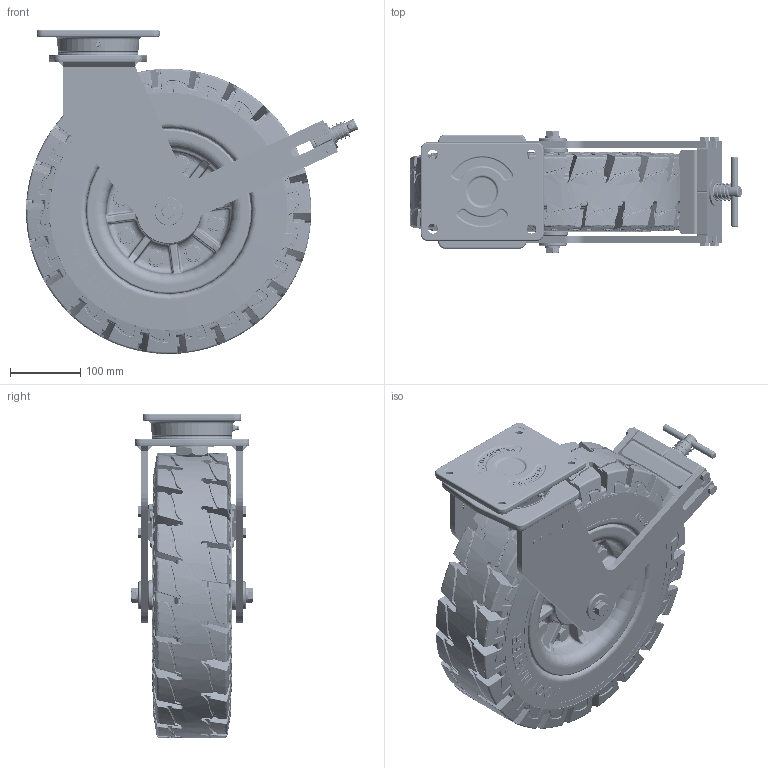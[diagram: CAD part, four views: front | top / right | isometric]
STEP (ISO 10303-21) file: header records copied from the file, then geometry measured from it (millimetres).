
FILE_DESCRIPTION(/* description */ (''),/* implementation_level */ '2;1');
FILE_NAME(/* name */ '\\192.168.10.38\지덕공유\1.기술연구소\2.연구개발 진행중\121.Solidtire caster_2024.11.22\제품설계\3D\홈페이지용\GT-400\22.GT-400-BSF-TRD.stp',/* time_stamp */ '2025-09-01T11:39:55+09:00',/* author */ ('admin'),/* organization */ (''),/* preprocessor_version */ 'ST-DEVELOPER v18.1',/* originating_system */ 'Autodesk Inventor 2021',/* authorisation */ '');
FILE_SCHEMA (('AUTOMOTIVE_DESIGN { 1 0 10303 214 3 1 1 }'));
Length unit declared in the file: millimetre
Products named in the file (1): 22.GT-400-BSF-TIRE-Rev01_2025.08.08_Shrinkwrap_1
Bounding box: 471.34 x 173 x 459.93 mm (x, y, z)
Volume: 13782690.5 mm3; surface area: 870715.6 mm2
Topology: 2 solids, 2 shells, 6338 faces, 16098 edges, 9884 vertices
Faces by surface type: bspline 3145, plane 1396, cylinder 850, torus 457, cone 369, sphere 121
Full cylindrical faces by diameter (mm): 1 x1, 6 x1, 10.2 x1, 12 x8, 14 x4, 16 x2, 18.5 x8, 20 x1, 24 x9, 40 x3, 42.7 x2, 62.5 x1, 113 x1, 114 x1, 258.997 x2, 317.998 x2, 333.998 x2, 336.998 x2
Entity records: 279449 total; most frequent: CARTESIAN_POINT 144589, ORIENTED_EDGE 31948, DIRECTION 18243, EDGE_CURVE 15974, VERTEX_POINT 9884, B_SPLINE_CURVE_WITH_KNOTS 7373, AXIS2_PLACEMENT_3D 7069, EDGE_LOOP 6608
